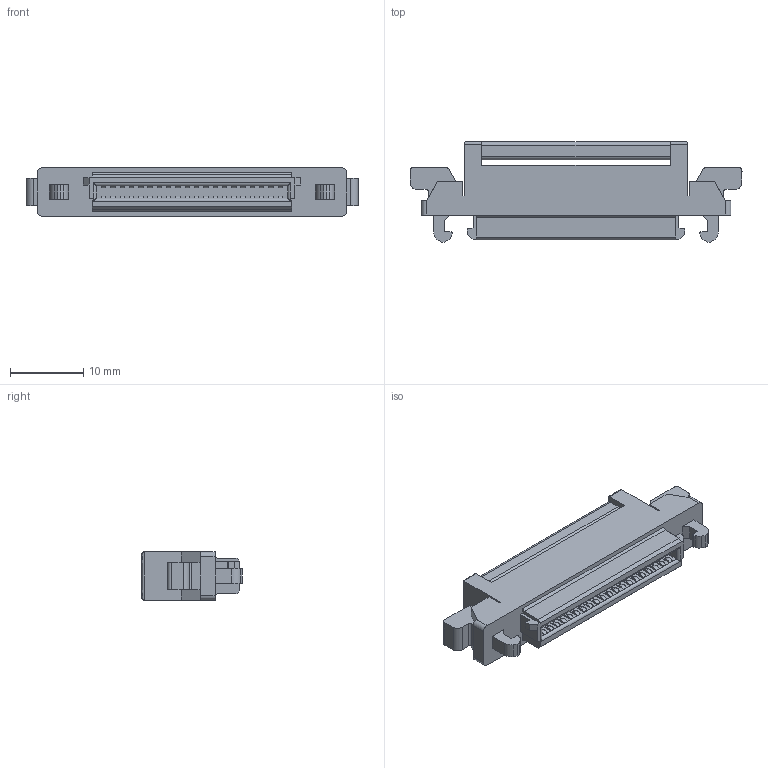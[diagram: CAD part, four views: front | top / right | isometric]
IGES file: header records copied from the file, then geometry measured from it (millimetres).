
Start section: Elysium IGES Interface
Global section: file name: 79HF:\図面登録\3DCAD\89XX\web用図面\4-IGES(図番_製品名)\P39478_8925E-040-179-F.igs; native system: CoCreate Modeling 17.0B  09-Oct-2010; preprocessor: CoCreate IGES_3D V2.2; author: Unknown; organization: Unknown; date: 20170922.102844; units: millimetre
Bounding box: 45.34 x 13.7 x 6.6 mm (x, y, z)
Volume: 2538.6 mm3; surface area: 2205.8 mm2
Topology: 1 solids, 1 shells, 344 faces, 1002 edges, 662 vertices
Faces by surface type: bspline 344
